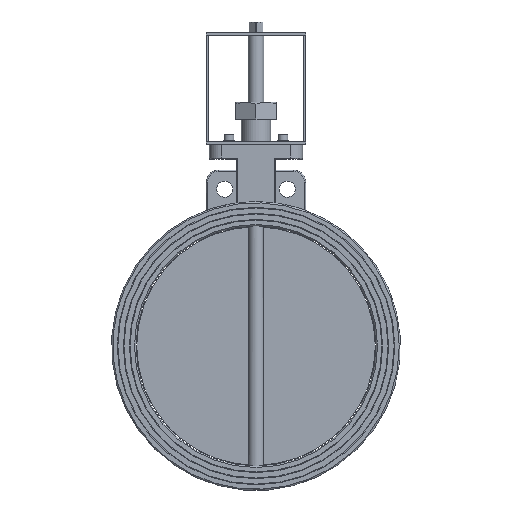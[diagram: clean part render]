
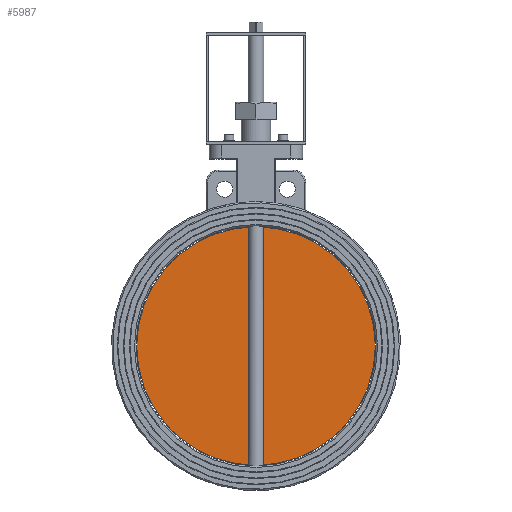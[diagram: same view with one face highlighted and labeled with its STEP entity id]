
A CAD part, top view. The second image highlights one B-rep face of the part: STEP entity #5987.
In plain terms, the highlighted planar face has unit normal (0, 0, 1) as drawn and (0, 0, -1) by its records, which use the part's own axes.
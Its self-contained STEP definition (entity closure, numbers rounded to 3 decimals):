
#1832=FACE_OUTER_BOUND('',#2317,.T.);
#2317=EDGE_LOOP('',(#5404));
#2562=CIRCLE('',#6548,192.);
#3097=VERTEX_POINT('',#10440);
#3872=EDGE_CURVE('',#3097,#3097,#2562,.T.);
#5404=ORIENTED_EDGE('',*,*,#3872,.T.);
#5646=PLANE('',#6549);
#5987=ADVANCED_FACE('',(#1832),#5646,.F.);
#6548=AXIS2_PLACEMENT_3D('',#10441,#8088,#8089);
#6549=AXIS2_PLACEMENT_3D('',#10442,#8090,#8091);
#8088=DIRECTION('center_axis',(0.,0.,-1.));
#8089=DIRECTION('ref_axis',(-1.,0.,0.));
#8090=DIRECTION('center_axis',(0.,0.,1.));
#8091=DIRECTION('ref_axis',(1.,0.,0.));
#10440=CARTESIAN_POINT('',(192.,0.,0.));
#10441=CARTESIAN_POINT('Origin',(0.,0.,0.));
#10442=CARTESIAN_POINT('Origin',(0.,0.,
0.));
